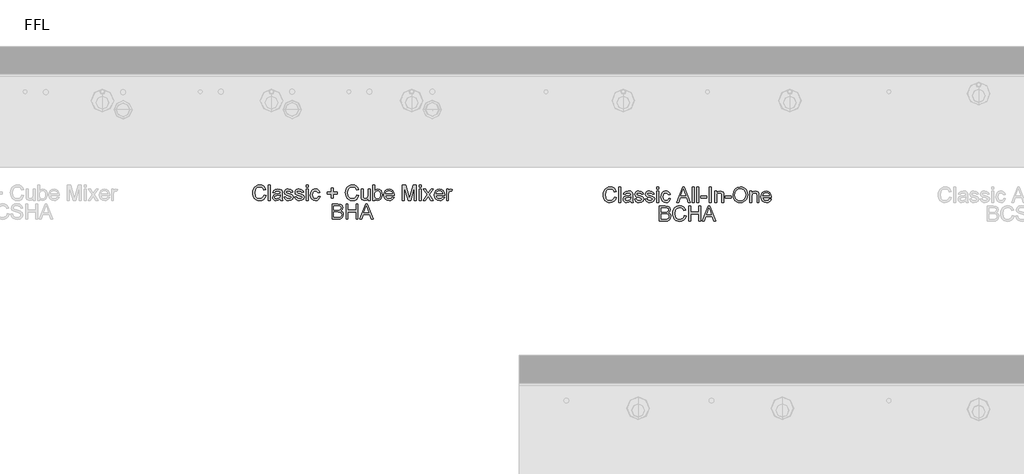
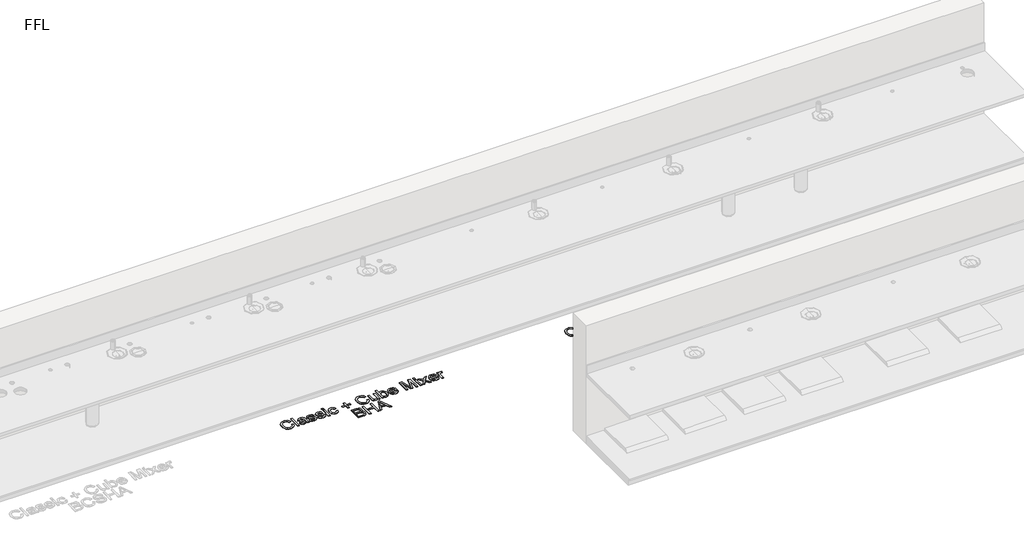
# One storey, part 9 of 13: 2 proxies.
"""IFC4 building model written with IfcOpenShell, lengths in millimetres."""

from ifc_helpers import new_model, si_unit, origin, origin_with_axes, place, context, project, spatial, polyline, outline, extrude, element, save

model = new_model("IFC4")

# Units and contexts
model_context = context("Model", 3, world=origin())
ifc_project = project(units=[si_unit("LENGTHUNIT", "METRE", prefix="MILLI")], contexts=[model_context])

# Site, building, storey
site = spatial("IfcSite", under=ifc_project)
building = spatial("IfcBuilding", under=site)
storey = spatial("IfcBuildingStorey", under=building, Name="FFL", Elevation=0.0)

# Proxies
placement = place(None, origin())
element("IfcBuildingElementProxy", 1, Name="150mm Arial", ObjectType="150mm Arial", at=placement, inside=storey, context=model_context, shape_type="SweptSolid", body=[
    extrude(outline(polyline([(6952.5723994, 657.2518309), (6971.0339379, 652.4922155), (6962.5153081, 630.9792948), (6949.1469187, 615.2626482), (6931.5868225, 605.648766), (6910.4930725, 602.4441386), (6889.0793105, 604.8690184), (6872.0736014, 612.1436578), (6859.0387456, 624.015653), (6849.5375437, 640.2326001), (6843.7367624, 659.2981049), (6841.8031687, 679.7157732), (6843.9891663, 701.2512299), (6850.5471591, 719.8479847), (6861.134599, 734.9155929), (6875.4089379, 745.8636097), (6892.3380244, 752.5297756), (6910.8897071, 754.7518309), (6931.1315941, 751.8762299), (6947.8668706, 743.249427), (6960.5726999, 729.4032732), (6968.7262456, 710.8696193), (6950.2647071, 706.4705809), (6943.8644667, 719.9336217), (6935.1204764, 729.1688982), (6923.9245629, 734.5099439), (6910.1685533, 736.2902924), (6894.3121831, 734.3161338), (6881.2863417, 728.3936578), (6871.4020268, 719.1448597), (6864.970236, 707.1917347), (6860.2647071, 679.7518309), (6865.8356206, 647.9489463), (6872.9570148, 636.0724439), (6883.1793706, 627.6304367), (6895.4344788, 622.5868669), (6908.6541302, 620.905677), (6924.0642865, 623.1953405), (6936.9053321, 630.0643309), (6946.6003441, 641.4405328), (6952.5723994, 657.2518309)])), origin_with_axes(), (0.0, 0.0, 1.0), 5.0),
    extrude(outline(polyline([(6994.110861, 604.7518309), (6994.110861, 752.4441386), (7012.5723994, 752.4441386), (7012.5723994, 604.7518309), (6994.110861, 604.7518309)])), origin_with_axes(), (0.0, 0.0, 1.0), 5.0),
    extrude(outline(polyline([(7109.4954764, 618.5979847), (7091.5928321, 606.0859655), (7071.8151879, 602.4441386), (7056.3870028, 604.6346434), (7045.0062937, 611.2061578), (7037.9885653, 621.1851242), (7035.6493225, 633.5979847), (7039.1829764, 648.2013501), (7048.4678321, 658.8023117), (7061.3945148, 664.860004), (7077.3680725, 667.6364463), (7109.3873033, 673.9826001), (7109.4954764, 678.093177), (7108.2244427, 686.3323597), (7104.4113417, 691.7229847), (7095.8836975, 695.7253886), (7084.0026879, 697.0595232), (7065.3248033, 693.5078405), (7056.4185533, 680.905677), (7037.9570148, 683.2133693), (7045.9437937, 701.2422155), (7062.0255244, 711.8071193), (7086.3824956, 715.5210617), (7108.7562937, 712.2398117), (7121.3945148, 704.000629), (7127.0555725, 691.4705809), (7127.9570148, 675.3167347), (7127.9570148, 652.3479847), (7128.8945148, 620.2746674), (7132.5723994, 604.7518309), (7114.110861, 604.7518309), (7109.4954764, 618.5979847)]), holes=[polyline([(7109.4954764, 655.5210617), (7079.7118225, 649.860004), (7063.8284091, 646.8672155), (7056.6348994, 641.999427), (7054.110861, 634.8960617), (7059.6096591, 624.9080809), (7075.7454764, 620.905677), (7094.423361, 625.3227443), (7106.4666302, 636.0138501), (7109.3873033, 650.2926963), (7109.4954764, 655.5210617)])]), origin_with_axes(), (0.0, 0.0, 1.0), 5.0),
    extrude(outline(polyline([(7146.4185533, 637.0595232), (7164.8800917, 639.3672155), (7167.7917504, 631.4705809), (7173.4257648, 625.6652924), (7193.0050917, 620.905677), (7211.8272071, 625.2686578), (7217.9570148, 635.5090424), (7211.7911494, 643.8023117), (7192.7887456, 649.0667347), (7164.9882648, 658.0991867), (7152.8548514, 668.6460617), (7148.7262456, 683.5378886), (7152.0435533, 697.2938982), (7161.0940341, 707.8047155), (7172.8308129, 713.2674559), (7188.7142264, 715.5210617), (7211.1781687, 711.8972636), (7225.4570148, 702.0895713), (7231.8031687, 685.5210617), (7213.3416302, 683.2133693), (7206.4005244, 693.3996674), (7190.1565341, 697.0595232), (7172.4882648, 693.561927), (7167.1877841, 685.4128886), (7169.3873033, 680.0402924), (7176.2743225, 675.9657732), (7192.1757648, 672.0354847), (7219.2731206, 663.3455809), (7231.8572552, 653.5018309), (7236.4185533, 637.4561578), (7231.063986, 619.7878886), (7215.6132648, 606.969379), (7192.7526879, 602.4441386), (7174.1379042, 604.625629), (7160.5531687, 611.1701001), (7151.4846591, 622.0054367), (7146.4185533, 637.0595232)])), origin_with_axes(), (0.0, 0.0, 1.0), 5.0),
    extrude(outline(polyline([(7250.2647071, 637.0595232), (7268.7262456, 639.3672155), (7271.6379042, 631.4705809), (7277.2719187, 625.6652924), (7296.8512456, 620.905677), (7315.673361, 625.2686578), (7321.8031687, 635.5090424), (7315.6373033, 643.8023117), (7296.6348994, 649.0667347), (7268.8344187, 658.0991867), (7256.7010052, 668.6460617), (7252.5723994, 683.5378886), (7255.8897071, 697.2938982), (7264.9401879, 707.8047155), (7276.6769667, 713.2674559), (7292.5603802, 715.5210617), (7315.0243225, 711.8972636), (7329.3031687, 702.0895713), (7335.6493225, 685.5210617), (7317.1877841, 683.2133693), (7310.2466783, 693.3996674), (7294.0026879, 697.0595232), (7276.3344187, 693.561927), (7271.0339379, 685.4128886), (7273.2334571, 680.0402924), (7280.1204764, 675.9657732), (7296.0219187, 672.0354847), (7323.1192744, 663.3455809), (7335.7034091, 653.5018309), (7340.2647071, 637.4561578), (7334.9101398, 619.7878886), (7319.4594187, 606.969379), (7296.5988417, 602.4441386), (7277.9840581, 604.625629), (7264.3993225, 611.1701001), (7255.3308129, 622.0054367), (7250.2647071, 637.0595232)])), origin_with_axes(), (0.0, 0.0, 1.0), 5.0),
    extrude(outline(polyline([(7361.0339379, 604.7518309), (7361.0339379, 713.2133693), (7379.4954764, 713.2133693), (7379.4954764, 604.7518309), (7361.0339379, 604.7518309)])), origin_with_axes(), (0.0, 0.0, 1.0), 5.0),
    extrude(outline(polyline([(7361.0339379, 733.9826001), (7361.0339379, 752.4441386), (7379.4954764, 752.4441386), (7379.4954764, 733.9826001), (7361.0339379, 733.9826001)])), origin_with_axes(), (0.0, 0.0, 1.0), 5.0),
    extrude(outline(polyline([(7476.4185533, 643.9826001), (7494.8800917, 641.6749078), (7489.7328562, 625.2551362), (7480.0603802, 612.8467828), (7466.7731206, 605.0447996), (7450.7815341, 602.4441386), (7431.1436134, 606.0724439), (7415.7875437, 616.9573597), (7405.8761855, 634.6211217), (7402.5723994, 658.5859655), (7408.2154283, 689.2530328), (7415.3368225, 700.7509294), (7425.4149475, 708.9585617), (7437.4717384, 713.8804367), (7450.5291302, 715.5210617), (7466.1285893, 713.2674559), (7478.6000437, 706.5066386), (7487.5468586, 695.5991867), (7492.5723994, 680.905677), (7474.110861, 678.5979847), (7465.5471591, 692.4261097), (7450.673361, 697.0595232), (7438.742772, 694.7788742), (7429.2731206, 687.936927), (7423.0937336, 676.1640905), (7421.0339379, 659.0907732), (7423.0486615, 641.7875881), (7429.0928321, 629.9741867), (7438.3912095, 623.1728044), (7450.1685533, 620.905677), (7459.728349, 622.3209415), (7467.5663898, 626.5667347), (7473.2680124, 633.7512299), (7476.4185533, 643.9826001)])), origin_with_axes(), (0.0, 0.0, 1.0), 5.0),
    extrude(outline(polyline([(7553.8344187, 604.7518309), (7612.7887456, 752.4441386), (7628.5098994, 752.4441386), (7687.4642264, 604.7518309), (7667.9570148, 604.7518309), (7651.0459571, 650.905677), (7590.2166302, 650.905677), (7573.3416302, 604.7518309), (7553.8344187, 604.7518309)]), holes=[polyline([(7596.9954764, 669.3672155), (7644.3031687, 669.3672155), (7630.9978802, 705.6773117), (7620.6493225, 733.9826001), (7611.454611, 708.8503886), (7596.9954764, 669.3672155)])]), origin_with_axes(), (0.0, 0.0, 1.0), 5.0),
    extrude(outline(polyline([(7704.8800917, 604.7518309), (7704.8800917, 752.4441386), (7723.3416302, 752.4441386), (7723.3416302, 604.7518309), (7704.8800917, 604.7518309)])), origin_with_axes(), (0.0, 0.0, 1.0), 5.0),
    extrude(outline(polyline([(7751.0339379, 604.7518309), (7751.0339379, 752.4441386), (7769.4954764, 752.4441386), (7769.4954764, 604.7518309), (7751.0339379, 604.7518309)])), origin_with_axes(), (0.0, 0.0, 1.0), 5.0),
    extrude(outline(polyline([(7787.9570148, 648.5979847), (7787.9570148, 667.0595232), (7845.6493225, 667.0595232), (7845.6493225, 648.5979847), (7787.9570148, 648.5979847)])), origin_with_axes(), (0.0, 0.0, 1.0), 5.0),
    extrude(outline(polyline([(7871.0339379, 604.7518309), (7871.0339379, 752.4441386), (7889.4954764, 752.4441386), (7889.4954764, 604.7518309), (7871.0339379, 604.7518309)])), origin_with_axes(), (0.0, 0.0, 1.0), 5.0),
    extrude(outline(polyline([(7924.110861, 604.7518309), (7924.110861, 713.2133693), (7942.5723994, 713.2133693), (7942.5723994, 698.0691386), (7956.688986, 711.1580809), (7975.9618225, 715.5210617), (7993.3957167, 712.0054367), (8005.2947552, 702.7746674), (8010.829611, 689.1989463), (8011.8031687, 671.3503886), (8011.8031687, 604.7518309), (7993.3416302, 604.7518309), (7993.3416302, 668.8624078), (7991.2142264, 685.1965424), (7983.6961975, 693.8323597), (7971.0219187, 697.0595232), (7960.2091182, 695.2476242), (7950.9918706, 689.811927), (7944.6772672, 679.3101242), (7942.5723994, 662.2999078), (7942.5723994, 604.7518309), (7924.110861, 604.7518309)])), origin_with_axes(), (0.0, 0.0, 1.0), 5.0),
    extrude(outline(polyline([(8027.9570148, 648.5979847), (8027.9570148, 667.0595232), (8085.6493225, 667.0595232), (8085.6493225, 648.5979847), (8027.9570148, 648.5979847)])), origin_with_axes(), (0.0, 0.0, 1.0), 5.0),
    extrude(outline(polyline([(8101.8031687, 676.6508693), (8106.7250437, 709.3101242), (8121.4906687, 734.0186578), (8144.0357408, 749.5685376), (8172.2959571, 754.7518309), (8191.6679523, 752.3179367), (8209.0387456, 745.016254), (8223.4618225, 733.3606049), (8233.9906687, 717.8648117), (8240.4269667, 699.2770713), (8242.5723994, 678.3455809), (8240.3142865, 657.1346434), (8233.5399475, 638.2854847), (8222.6234812, 622.7626482), (8207.938986, 611.530677), (8190.7169307, 604.7157732), (8172.1877841, 602.4441386), (8152.5183129, 604.9546554), (8135.048361, 612.4862059), (8120.6613417, 624.3582011), (8110.2406687, 639.890052), (8103.9125437, 657.7611458), (8101.8031687, 676.6508693)]), holes=[polyline([(8120.2647071, 676.4705809), (8123.9561134, 653.3666145), (8135.0303321, 635.7614463), (8151.6754643, 624.6196193), (8172.079611, 620.905677), (8192.7812336, 624.655677), (8209.4534091, 635.905677), (8220.446498, 654.0517107), (8224.110861, 678.4898117), (8222.5423514, 694.8329607), (8217.8368225, 708.9585617), (8210.1159691, 720.5105448), (8199.501486, 729.1328405), (8186.696498, 734.5009294), (8172.4041302, 736.2902924), (8152.5453562, 732.8422756), (8135.6613417, 722.4982251), (8124.1138658, 704.0952804), (8120.2647071, 676.4705809)])]), origin_with_axes(), (0.0, 0.0, 1.0), 5.0),
    extrude(outline(polyline([(8265.6493225, 604.7518309), (8265.6493225, 713.2133693), (8284.110861, 713.2133693), (8284.110861, 698.0691386), (8298.2274475, 711.1580809), (8317.5002841, 715.5210617), (8334.9341783, 712.0054367), (8346.8332167, 702.7746674), (8352.3680725, 689.1989463), (8353.3416302, 671.3503886), (8353.3416302, 604.7518309), (8334.8800917, 604.7518309), (8334.8800917, 668.8624078), (8332.7526879, 685.1965424), (8325.2346591, 693.8323597), (8312.5603802, 697.0595232), (8301.7475797, 695.2476242), (8292.5303321, 689.811927), (8286.2157288, 679.3101242), (8284.110861, 662.2999078), (8284.110861, 604.7518309), (8265.6493225, 604.7518309)])), origin_with_axes(), (0.0, 0.0, 1.0), 5.0),
    extrude(outline(polyline([(8454.6637456, 637.0595232), (8472.7647071, 634.7518309), (8466.242772, 621.1130088), (8455.8356206, 610.9176963), (8441.7776278, 604.562528), (8424.3031687, 602.4441386), (8402.64151, 606.0994871), (8385.9738417, 617.0655328), (8375.3458369, 634.6301362), (8371.8031687, 658.0811578), (8375.3818946, 682.3209415), (8386.1180725, 700.4489463), (8402.5603802, 711.7530328), (8423.2574956, 715.5210617), (8443.3100797, 711.7620472), (8459.3332167, 700.485004), (8469.8395268, 682.3930568), (8473.3416302, 658.1893309), (8473.2334571, 653.2133693), (8390.2647071, 653.2133693), (8393.4603201, 639.3942588), (8400.8836975, 629.235004), (8411.5973393, 622.9880088), (8424.6637456, 620.905677), (8442.7647071, 624.7638501), (8454.6637456, 637.0595232)]), holes=[polyline([(8390.2647071, 671.6749078), (8454.8800917, 671.6749078), (8452.3830966, 681.4285136), (8447.4882648, 688.405677), (8436.7250437, 694.8960617), (8423.1853802, 697.0595232), (8410.7409691, 695.3332612), (8400.4510052, 690.1544751), (8393.2980605, 682.0820592), (8390.2647071, 671.6749078)])]), origin_with_axes(), (0.0, 0.0, 1.0), 5.0),
    extrude(outline(polyline([(7387.5723994, 422.4441386), (7387.5723994, 570.1364463), (7443.9305725, 570.1364463), (7471.532736, 565.7914943), (7480.8085773, 560.2791746), (7487.8308129, 552.4321193), (7493.7262456, 533.5378886), (7488.7683129, 516.2842828), (7473.7863417, 503.2133693), (7484.2475797, 497.750629), (7491.9774475, 489.4393309), (7496.7505845, 478.8293549), (7498.3416302, 466.4705809), (7493.9966783, 446.6208213), (7483.2334571, 432.4862059), (7467.1697552, 424.9862059), (7443.4978802, 422.4441386), (7387.5723994, 422.4441386)]), holes=[polyline([(7406.0339379, 440.905677), (7443.8945148, 440.905677), (7457.5964379, 441.6268309), (7469.188986, 445.6472636), (7476.8692744, 453.8503886), (7479.8800917, 466.2902924), (7476.3464379, 480.641254), (7464.8981206, 489.2049559), (7442.0916302, 491.6749078), (7406.0339379, 491.6749078), (7406.0339379, 440.905677)]), polyline([(7406.0339379, 510.1364463), (7439.7478802, 510.1364463), (7459.4353802, 511.7229847), (7471.2803321, 518.5559174), (7475.2647071, 530.5811578), (7471.5507648, 542.624427), (7460.9137456, 549.7458213), (7437.1877841, 551.6749078), (7406.0339379, 551.6749078), (7406.0339379, 510.1364463)])]), origin_with_axes(), (0.0, 0.0, 1.0), 5.0),
    extrude(outline(polyline([(7627.5723994, 474.9441386), (7646.0339379, 470.1845232), (7637.5153081, 448.6716025), (7624.1469187, 432.9549559), (7606.5868225, 423.3410737), (7585.4930725, 420.1364463), (7564.0793105, 422.5613261), (7547.0736014, 429.8359655), (7534.0387456, 441.7079607), (7524.5375437, 457.9249078), (7518.7367624, 476.9904126), (7516.8031687, 497.4080809), (7518.9891663, 518.9435376), (7525.5471591, 537.5402924), (7536.134599, 552.6079006), (7550.4089379, 563.5559174), (7567.3380244, 570.2220833), (7585.8897071, 572.4441386), (7606.1315941, 569.5685376), (7622.8668706, 560.9417347), (7635.5726999, 547.0955809), (7643.7262456, 528.561927), (7625.2647071, 524.1628886), (7618.8644667, 537.6259294), (7610.1204764, 546.8612059), (7598.9245629, 552.2022516), (7585.1685533, 553.9826001), (7569.3121831, 552.0084415), (7556.2863417, 546.0859655), (7546.4020268, 536.8371674), (7539.970236, 524.8840424), (7535.2647071, 497.4441386), (7540.8356206, 465.641254), (7547.9570148, 453.7647516), (7558.1793706, 445.3227443), (7570.4344788, 440.2791746), (7583.6541302, 438.5979847), (7599.0642865, 440.8876482), (7611.9053321, 447.7566386), (7621.6003441, 459.1328405), (7627.5723994, 474.9441386)])), origin_with_axes(), (0.0, 0.0, 1.0), 5.0),
    extrude(outline(polyline([(7671.4185533, 422.4441386), (7671.4185533, 570.1364463), (7689.8800917, 570.1364463), (7689.8800917, 510.1364463), (7768.3416302, 510.1364463), (7768.3416302, 570.1364463), (7786.8031687, 570.1364463), (7786.8031687, 422.4441386), (7768.3416302, 422.4441386), (7768.3416302, 491.6749078), (7689.8800917, 491.6749078), (7689.8800917, 422.4441386), (7671.4185533, 422.4441386)])), origin_with_axes(), (0.0, 0.0, 1.0), 5.0),
    extrude(outline(polyline([(7801.9113417, 422.4441386), (7860.8656687, 570.1364463), (7876.5868225, 570.1364463), (7935.5411494, 422.4441386), (7916.0339379, 422.4441386), (7899.1228802, 468.5979847), (7838.2935533, 468.5979847), (7821.4185533, 422.4441386), (7801.9113417, 422.4441386)]), holes=[polyline([(7845.0723994, 487.0595232), (7892.3800917, 487.0595232), (7879.0748033, 523.3696193), (7868.7262456, 551.6749078), (7859.5315341, 526.5426963), (7845.0723994, 487.0595232)])]), origin_with_axes(), (0.0, 0.0, 1.0), 5.0),
])
element("IfcBuildingElementProxy", 2, Name="150mm Arial", ObjectType="150mm Arial", at=placement, inside=storey, context=model_context, shape_type="SweptSolid", body=[
    extrude(outline(polyline([(3552.5723994, 676.3018309), (3571.0339379, 671.5422155), (3562.5153081, 650.0292948), (3549.1469187, 634.3126482), (3531.5868225, 624.698766), (3510.4930725, 621.4941386), (3489.0793105, 623.9190184), (3472.0736014, 631.1936578), (3459.0387456, 643.065653), (3449.5375437, 659.2826001), (3443.7367624, 678.3481049), (3441.8031687, 698.7657732), (3443.9891663, 720.3012299), (3450.5471591, 738.8979847), (3461.134599, 753.9655929), (3475.4089379, 764.9136097), (3492.3380244, 771.5797756), (3510.8897071, 773.8018309), (3531.1315941, 770.9262299), (3547.8668706, 762.299427), (3560.5726999, 748.4532732), (3568.7262456, 729.9196193), (3550.2647071, 725.5205809), (3543.8644667, 738.9836217), (3535.1204764, 748.2188982), (3523.9245629, 753.5599439), (3510.1685533, 755.3402924), (3494.3121831, 753.3661338), (3481.2863417, 747.4436578), (3471.4020268, 738.1948597), (3464.970236, 726.2417347), (3460.2647071, 698.8018309), (3465.8356206, 666.9989463), (3472.9570148, 655.1224439), (3483.1793706, 646.6804367), (3495.4344788, 641.6368669), (3508.6541302, 639.955677), (3524.0642865, 642.2453405), (3536.9053321, 649.1143309), (3546.6003441, 660.4905328), (3552.5723994, 676.3018309)])), origin_with_axes(), (0.0, 0.0, 1.0), 5.0),
    extrude(outline(polyline([(3594.110861, 623.8018309), (3594.110861, 771.4941386), (3612.5723994, 771.4941386), (3612.5723994, 623.8018309), (3594.110861, 623.8018309)])), origin_with_axes(), (0.0, 0.0, 1.0), 5.0),
    extrude(outline(polyline([(3709.4954764, 637.6479847), (3691.5928321, 625.1359655), (3671.8151879, 621.4941386), (3656.3870028, 623.6846434), (3645.0062937, 630.2561578), (3637.9885653, 640.2351242), (3635.6493225, 652.6479847), (3639.1829764, 667.2513501), (3648.4678321, 677.8523117), (3661.3945148, 683.910004), (3677.3680725, 686.6864463), (3709.3873033, 693.0326001), (3709.4954764, 697.143177), (3708.2244427, 705.3823597), (3704.4113417, 710.7729847), (3695.8836975, 714.7753886), (3684.0026879, 716.1095232), (3665.3248033, 712.5578405), (3656.4185533, 699.955677), (3637.9570148, 702.2633693), (3645.9437937, 720.2922155), (3662.0255244, 730.8571193), (3686.3824956, 734.5710617), (3708.7562937, 731.2898117), (3721.3945148, 723.050629), (3727.0555725, 710.5205809), (3727.9570148, 694.3667347), (3727.9570148, 671.3979847), (3728.8945148, 639.3246674), (3732.5723994, 623.8018309), (3714.110861, 623.8018309), (3709.4954764, 637.6479847)]), holes=[polyline([(3709.4954764, 674.5710617), (3679.7118225, 668.910004), (3663.8284091, 665.9172155), (3656.6348994, 661.049427), (3654.110861, 653.9460617), (3659.6096591, 643.9580809), (3675.7454764, 639.955677), (3694.423361, 644.3727443), (3706.4666302, 655.0638501), (3709.3873033, 669.3426963), (3709.4954764, 674.5710617)])]), origin_with_axes(), (0.0, 0.0, 1.0), 5.0),
    extrude(outline(polyline([(3746.4185533, 656.1095232), (3764.8800917, 658.4172155), (3767.7917504, 650.5205809), (3773.4257648, 644.7152924), (3793.0050917, 639.955677), (3811.8272071, 644.3186578), (3817.9570148, 654.5590424), (3811.7911494, 662.8523117), (3792.7887456, 668.1167347), (3764.9882648, 677.1491867), (3752.8548514, 687.6960617), (3748.7262456, 702.5878886), (3752.0435533, 716.3438982), (3761.0940341, 726.8547155), (3772.8308129, 732.3174559), (3788.7142264, 734.5710617), (3811.1781687, 730.9472636), (3825.4570148, 721.1395713), (3831.8031687, 704.5710617), (3813.3416302, 702.2633693), (3806.4005244, 712.4496674), (3790.1565341, 716.1095232), (3772.4882648, 712.611927), (3767.1877841, 704.4628886), (3769.3873033, 699.0902924), (3776.2743225, 695.0157732), (3792.1757648, 691.0854847), (3819.2731206, 682.3955809), (3831.8572552, 672.5518309), (3836.4185533, 656.5061578), (3831.063986, 638.8378886), (3815.6132648, 626.019379), (3792.7526879, 621.4941386), (3774.1379042, 623.675629), (3760.5531687, 630.2201001), (3751.4846591, 641.0554367), (3746.4185533, 656.1095232)])), origin_with_axes(), (0.0, 0.0, 1.0), 5.0),
    extrude(outline(polyline([(3850.2647071, 656.1095232), (3868.7262456, 658.4172155), (3871.6379042, 650.5205809), (3877.2719187, 644.7152924), (3896.8512456, 639.955677), (3915.673361, 644.3186578), (3921.8031687, 654.5590424), (3915.6373033, 662.8523117), (3896.6348994, 668.1167347), (3868.8344187, 677.1491867), (3856.7010052, 687.6960617), (3852.5723994, 702.5878886), (3855.8897071, 716.3438982), (3864.9401879, 726.8547155), (3876.6769667, 732.3174559), (3892.5603802, 734.5710617), (3915.0243225, 730.9472636), (3929.3031687, 721.1395713), (3935.6493225, 704.5710617), (3917.1877841, 702.2633693), (3910.2466783, 712.4496674), (3894.0026879, 716.1095232), (3876.3344187, 712.611927), (3871.0339379, 704.4628886), (3873.2334571, 699.0902924), (3880.1204764, 695.0157732), (3896.0219187, 691.0854847), (3923.1192744, 682.3955809), (3935.7034091, 672.5518309), (3940.2647071, 656.5061578), (3934.9101398, 638.8378886), (3919.4594187, 626.019379), (3896.5988417, 621.4941386), (3877.9840581, 623.675629), (3864.3993225, 630.2201001), (3855.3308129, 641.0554367), (3850.2647071, 656.1095232)])), origin_with_axes(), (0.0, 0.0, 1.0), 5.0),
    extrude(outline(polyline([(3961.0339379, 623.8018309), (3961.0339379, 732.2633693), (3979.4954764, 732.2633693), (3979.4954764, 623.8018309), (3961.0339379, 623.8018309)])), origin_with_axes(), (0.0, 0.0, 1.0), 5.0),
    extrude(outline(polyline([(3961.0339379, 753.0326001), (3961.0339379, 771.4941386), (3979.4954764, 771.4941386), (3979.4954764, 753.0326001), (3961.0339379, 753.0326001)])), origin_with_axes(), (0.0, 0.0, 1.0), 5.0),
    extrude(outline(polyline([(4076.4185533, 663.0326001), (4094.8800917, 660.7249078), (4089.7328562, 644.3051362), (4080.0603802, 631.8967828), (4066.7731206, 624.0947996), (4050.7815341, 621.4941386), (4031.1436134, 625.1224439), (4015.7875437, 636.0073597), (4005.8761855, 653.6711217), (4002.5723994, 677.6359655), (4008.2154283, 708.3030328), (4015.3368225, 719.8009294), (4025.4149475, 728.0085617), (4037.4717384, 732.9304367), (4050.5291302, 734.5710617), (4066.1285893, 732.3174559), (4078.6000437, 725.5566386), (4087.5468586, 714.6491867), (4092.5723994, 699.955677), (4074.110861, 697.6479847), (4065.5471591, 711.4761097), (4050.673361, 716.1095232), (4038.742772, 713.8288742), (4029.2731206, 706.986927), (4023.0937336, 695.2140905), (4021.0339379, 678.1407732), (4023.0486615, 660.8375881), (4029.0928321, 649.0241867), (4038.3912095, 642.2228044), (4050.1685533, 639.955677), (4059.728349, 641.3709415), (4067.5663898, 645.6167347), (4073.2680124, 652.8012299), (4076.4185533, 663.0326001)])), origin_with_axes(), (0.0, 0.0, 1.0), 5.0),
    extrude(outline(polyline([(4205.6493225, 646.878754), (4205.6493225, 686.1095232), (4166.4185533, 686.1095232), (4166.4185533, 704.5710617), (4205.6493225, 704.5710617), (4205.6493225, 743.8018309), (4224.110861, 743.8018309), (4224.110861, 704.5710617), (4263.3416302, 704.5710617), (4263.3416302, 686.1095232), (4224.110861, 686.1095232), (4224.110861, 646.878754), (4205.6493225, 646.878754)])), origin_with_axes(), (0.0, 0.0, 1.0), 5.0),
    extrude(outline(polyline([(4452.5723994, 676.3018309), (4471.0339379, 671.5422155), (4462.5153081, 650.0292948), (4449.1469187, 634.3126482), (4431.5868225, 624.698766), (4410.4930725, 621.4941386), (4389.0793105, 623.9190184), (4372.0736014, 631.1936578), (4359.0387456, 643.065653), (4349.5375437, 659.2826001), (4343.7367624, 678.3481049), (4341.8031687, 698.7657732), (4343.9891663, 720.3012299), (4350.5471591, 738.8979847), (4361.134599, 753.9655929), (4375.4089379, 764.9136097), (4392.3380244, 771.5797756), (4410.8897071, 773.8018309), (4431.1315941, 770.9262299), (4447.8668706, 762.299427), (4460.5726999, 748.4532732), (4468.7262456, 729.9196193), (4450.2647071, 725.5205809), (4443.8644667, 738.9836217), (4435.1204764, 748.2188982), (4423.9245629, 753.5599439), (4410.1685533, 755.3402924), (4394.3121831, 753.3661338), (4381.2863417, 747.4436578), (4371.4020268, 738.1948597), (4364.970236, 726.2417347), (4360.2647071, 698.8018309), (4365.8356206, 666.9989463), (4372.9570148, 655.1224439), (4383.1793706, 646.6804367), (4395.4344788, 641.6368669), (4408.6541302, 639.955677), (4424.0642865, 642.2453405), (4436.9053321, 649.1143309), (4446.6003441, 660.4905328), (4452.5723994, 676.3018309)])), origin_with_axes(), (0.0, 0.0, 1.0), 5.0),
    extrude(outline(polyline([(4563.3416302, 623.8018309), (4563.3416302, 642.4436578), (4548.8824956, 626.7315184), (4530.0243225, 621.4941386), (4512.6625437, 625.1720232), (4500.6913898, 634.4027924), (4495.1925917, 647.9965424), (4494.110861, 665.160004), (4494.110861, 732.2633693), (4512.5723994, 732.2633693), (4512.5723994, 673.8499078), (4513.6901879, 655.0277924), (4520.9918706, 643.9761097), (4534.7478802, 639.955677), (4550.1625437, 644.066254), (4560.3488417, 655.2621674), (4563.3416302, 675.8330809), (4563.3416302, 732.2633693), (4581.8031687, 732.2633693), (4581.8031687, 623.8018309), (4563.3416302, 623.8018309)])), origin_with_axes(), (0.0, 0.0, 1.0), 5.0),
    extrude(outline(polyline([(4625.6493225, 623.8018309), (4607.1877841, 623.8018309), (4607.1877841, 771.4941386), (4625.6493225, 771.4941386), (4625.6493225, 716.722504), (4638.5760052, 730.1089222), (4654.6397071, 734.5710617), (4673.1373033, 730.550629), (4687.4882648, 719.2465424), (4696.3043706, 701.6684174), (4699.4954764, 679.6551963), (4696.1916903, 655.0097636), (4686.2803321, 636.674427), (4671.7355605, 625.2892107), (4654.5315341, 621.4941386), (4638.1162696, 626.3889703), (4625.6493225, 641.0734655), (4625.6493225, 623.8018309)]), holes=[polyline([(4625.6493225, 678.7898117), (4626.9113417, 663.393177), (4630.6973994, 652.972504), (4640.3698754, 643.2098838), (4652.9449956, 639.955677), (4663.6000437, 642.3535136), (4672.704611, 649.5470232), (4678.9516062, 661.4911338), (4681.0339379, 678.1407732), (4679.0372432, 695.033802), (4673.0471591, 706.8426963), (4664.2265461, 713.7928165), (4653.7382648, 716.1095232), (4643.0832167, 713.7116867), (4633.9786494, 706.518177), (4627.7316542, 694.7904126), (4625.6493225, 678.7898117)])]), origin_with_axes(), (0.0, 0.0, 1.0), 5.0),
    extrude(outline(polyline([(4796.2022071, 656.1095232), (4814.3031687, 653.8018309), (4807.7812336, 640.1630088), (4797.3740821, 629.9676963), (4783.3160893, 623.612528), (4765.8416302, 621.4941386), (4744.1799716, 625.1494871), (4727.5123033, 636.1155328), (4716.8842985, 653.6801362), (4713.3416302, 677.1311578), (4716.9203562, 701.3709415), (4727.6565341, 719.4989463), (4744.0988417, 730.8030328), (4764.7959571, 734.5710617), (4784.8485413, 730.8120472), (4800.8716783, 719.535004), (4811.3779884, 701.4430568), (4814.8800917, 677.2393309), (4814.7719187, 672.2633693), (4731.8031687, 672.2633693), (4734.9987816, 658.4442588), (4742.4221591, 648.285004), (4753.1358009, 642.0380088), (4766.2022071, 639.955677), (4784.3031687, 643.8138501), (4796.2022071, 656.1095232)]), holes=[polyline([(4731.8031687, 690.7249078), (4796.4185533, 690.7249078), (4793.9215581, 700.4785136), (4789.0267264, 707.455677), (4778.2635052, 713.9460617), (4764.7238417, 716.1095232), (4752.2794307, 714.3832612), (4741.9894667, 709.2044751), (4734.836522, 701.1320592), (4731.8031687, 690.7249078)])]), origin_with_axes(), (0.0, 0.0, 1.0), 5.0),
    extrude(outline(polyline([(4893.3416302, 623.8018309), (4893.3416302, 771.4941386), (4925.1084571, 771.4941386), (4955.3248033, 667.3955809), (4961.4185533, 645.6527924), (4968.017111, 669.1984655), (4997.7286494, 771.4941386), (5029.4954764, 771.4941386), (5029.4954764, 623.8018309), (5011.0339379, 623.8018309), (5011.0339379, 753.0326001), (4973.9305725, 623.8018309), (4948.9065341, 623.8018309), (4911.8031687, 753.0326001), (4911.8031687, 623.8018309), (4893.3416302, 623.8018309)])), origin_with_axes(), (0.0, 0.0, 1.0), 5.0),
    extrude(outline(polyline([(5059.4954764, 623.8018309), (5059.4954764, 732.2633693), (5077.9570148, 732.2633693), (5077.9570148, 623.8018309), (5059.4954764, 623.8018309)])), origin_with_axes(), (0.0, 0.0, 1.0), 5.0),
    extrude(outline(polyline([(5059.4954764, 753.0326001), (5059.4954764, 771.4941386), (5077.9570148, 771.4941386), (5077.9570148, 753.0326001), (5059.4954764, 753.0326001)])), origin_with_axes(), (0.0, 0.0, 1.0), 5.0),
    extrude(outline(polyline([(5094.110861, 623.8018309), (5133.5579764, 678.3210617), (5096.4185533, 732.2633693), (5118.6300917, 732.2633693), (5136.5507648, 706.3018309), (5144.9161494, 694.0422155), (5152.1637456, 704.066254), (5172.5723994, 732.2633693), (5194.7839379, 732.2633693), (5155.7695148, 678.3210617), (5193.3416302, 623.8018309), (5171.1300917, 623.8018309), (5148.5219187, 656.5782732), (5144.3752841, 662.5638501), (5116.3223994, 623.8018309), (5094.110861, 623.8018309)])), origin_with_axes(), (0.0, 0.0, 1.0), 5.0),
    extrude(outline(polyline([(5285.4329764, 656.1095232), (5303.5339379, 653.8018309), (5297.0120028, 640.1630088), (5286.6048514, 629.9676963), (5272.5468586, 623.612528), (5255.0723994, 621.4941386), (5233.4107408, 625.1494871), (5216.7430725, 636.1155328), (5206.1150677, 653.6801362), (5202.5723994, 677.1311578), (5206.1511254, 701.3709415), (5216.8873033, 719.4989463), (5233.329611, 730.8030328), (5254.0267264, 734.5710617), (5274.0793105, 730.8120472), (5290.1024475, 719.535004), (5300.6087576, 701.4430568), (5304.110861, 677.2393309), (5304.0026879, 672.2633693), (5221.0339379, 672.2633693), (5224.2295509, 658.4442588), (5231.6529283, 648.285004), (5242.3665701, 642.0380088), (5255.4329764, 639.955677), (5273.5339379, 643.8138501), (5285.4329764, 656.1095232)]), holes=[polyline([(5221.0339379, 690.7249078), (5285.6493225, 690.7249078), (5283.1523273, 700.4785136), (5278.2574956, 707.455677), (5267.4942744, 713.9460617), (5253.954611, 716.1095232), (5241.5101999, 714.3832612), (5231.220236, 709.2044751), (5224.0672913, 701.1320592), (5221.0339379, 690.7249078)])]), origin_with_axes(), (0.0, 0.0, 1.0), 5.0),
    extrude(outline(polyline([(5322.5723994, 623.8018309), (5322.5723994, 732.2633693), (5338.7262456, 732.2633693), (5338.7262456, 716.2176963), (5350.1925917, 731.0013501), (5361.7310533, 734.5710617), (5380.2647071, 728.8739463), (5374.0988417, 712.3234655), (5361.1180725, 716.1095232), (5350.6793706, 712.4676963), (5344.0267264, 702.3715424), (5341.0339379, 680.8090424), (5341.0339379, 623.8018309), (5322.5723994, 623.8018309)])), origin_with_axes(), (0.0, 0.0, 1.0), 5.0),
    extrude(outline(polyline([(4211.4185533, 441.4941386), (4211.4185533, 589.1864463), (4267.7767264, 589.1864463), (4295.3788898, 584.8414943), (4304.6547312, 579.3291746), (4311.6769667, 571.4821193), (4317.5723994, 552.5878886), (4312.6144667, 535.3342828), (4297.6324956, 522.2633693), (4308.0937336, 516.800629), (4315.8236014, 508.4893309), (4320.5967384, 497.8793549), (4322.1877841, 485.5205809), (4317.8428321, 465.6708213), (4307.079611, 451.5362059), (4291.0159091, 444.0362059), (4267.3440341, 441.4941386), (4211.4185533, 441.4941386)]), holes=[polyline([(4229.8800917, 529.1864463), (4263.5940341, 529.1864463), (4283.2815341, 530.7729847), (4295.126486, 537.6059174), (4299.110861, 549.6311578), (4295.3969187, 561.674427), (4284.7598994, 568.7958213), (4261.0339379, 570.7249078), (4229.8800917, 570.7249078), (4229.8800917, 529.1864463)]), polyline([(4229.8800917, 459.955677), (4267.7406687, 459.955677), (4281.4425917, 460.6768309), (4293.0351398, 464.6972636), (4300.7154283, 472.9003886), (4303.7262456, 485.3402924), (4300.1925917, 499.691254), (4288.7442744, 508.2549559), (4265.9377841, 510.7249078), (4229.8800917, 510.7249078), (4229.8800917, 459.955677)])]), origin_with_axes(), (0.0, 0.0, 1.0), 5.0),
    extrude(outline(polyline([(4347.5723994, 441.4941386), (4347.5723994, 589.1864463), (4366.0339379, 589.1864463), (4366.0339379, 529.1864463), (4444.4954764, 529.1864463), (4444.4954764, 589.1864463), (4462.9570148, 589.1864463), (4462.9570148, 441.4941386), (4444.4954764, 441.4941386), (4444.4954764, 510.7249078), (4366.0339379, 510.7249078), (4366.0339379, 441.4941386), (4347.5723994, 441.4941386)])), origin_with_axes(), (0.0, 0.0, 1.0), 5.0),
    extrude(outline(polyline([(4478.0651879, 441.4941386), (4537.0195148, 589.1864463), (4552.7406687, 589.1864463), (4611.6949956, 441.4941386), (4592.1877841, 441.4941386), (4575.2767264, 487.6479847), (4514.4473994, 487.6479847), (4497.5723994, 441.4941386), (4478.0651879, 441.4941386)]), holes=[polyline([(4521.2262456, 506.1095232), (4568.5339379, 506.1095232), (4555.2286494, 542.4196193), (4544.8800917, 570.7249078), (4535.6853802, 545.5926963), (4521.2262456, 506.1095232)])]), origin_with_axes(), (0.0, 0.0, 1.0), 5.0),
])

save(model, "model.ifc")
